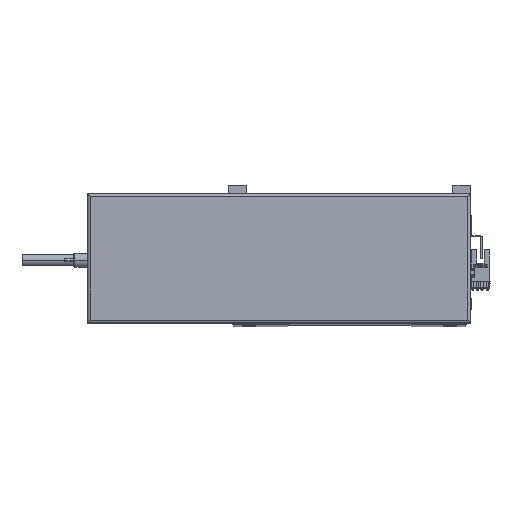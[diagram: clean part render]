
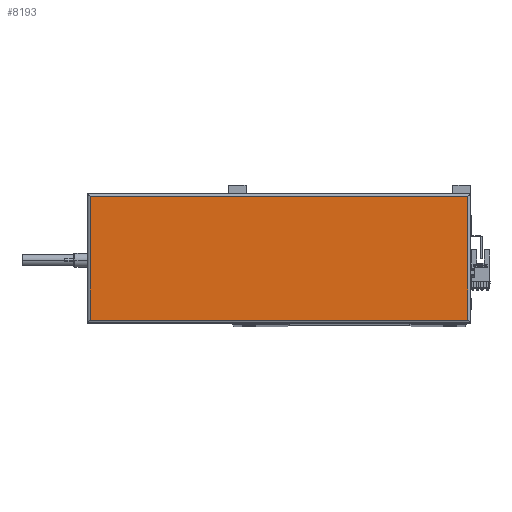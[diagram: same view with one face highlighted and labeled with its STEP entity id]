
A CAD part, top view. The second image highlights one B-rep face of the part: STEP entity #8193.
In plain terms, the highlighted planar face has unit normal (0, 0, 1).
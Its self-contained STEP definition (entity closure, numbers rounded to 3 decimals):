
#1210 = EDGE_CURVE ( 'NONE', #6570, #9128, #49458, .T. ) ;
#1787 = VECTOR ( 'NONE', #12469, 1000. ) ;
#3922 = EDGE_CURVE ( 'NONE', #42200, #6570, #14708, .T. ) ;
#4742 = CARTESIAN_POINT ( 'NONE',  ( 267., 2., 44.8 ) ) ;
#5625 = VECTOR ( 'NONE', #24433, 1000. ) ;
#5705 = CARTESIAN_POINT ( 'NONE',  ( 2., 88., 44.8 ) ) ;
#6570 = VERTEX_POINT ( 'NONE', #39170 ) ;
#6715 = DIRECTION ( 'NONE',  ( 0., 0., 1. ) ) ;
#7906 = ORIENTED_EDGE ( 'NONE', *, *, #1210, .T. ) ;
#8193 = ADVANCED_FACE ( 'NONE', ( #8262 ), #42292, .T. ) ;
#8262 = FACE_OUTER_BOUND ( 'NONE', #38332, .T. ) ;
#8308 = DIRECTION ( 'NONE',  ( 0., 1., 0. ) ) ;
#9128 = VERTEX_POINT ( 'NONE', #20532 ) ;
#10090 = CARTESIAN_POINT ( 'NONE',  ( 0., 88., 44.8 ) ) ;
#12118 = CARTESIAN_POINT ( 'NONE',  ( 2., 0., 44.8 ) ) ;
#12469 = DIRECTION ( 'NONE',  ( 0., -1., 0. ) ) ;
#14254 = CARTESIAN_POINT ( 'NONE',  ( 265., 88., 44.8 ) ) ;
#14708 = LINE ( 'NONE', #12118, #1787 ) ;
#18454 = CARTESIAN_POINT ( 'NONE',  ( 133.5, 45., 44.8 ) ) ;
#20532 = CARTESIAN_POINT ( 'NONE',  ( 265., 2., 44.8 ) ) ;
#23117 = LINE ( 'NONE', #10090, #42324 ) ;
#24433 = DIRECTION ( 'NONE',  ( 1., 0., 0. ) ) ;
#24486 = LINE ( 'NONE', #32012, #47944 ) ;
#26794 = ORIENTED_EDGE ( 'NONE', *, *, #3922, .T. ) ;
#32012 = CARTESIAN_POINT ( 'NONE',  ( 265., 90., 44.8 ) ) ;
#32670 = AXIS2_PLACEMENT_3D ( 'NONE', #18454, #6715, #38467 ) ;
#38332 = EDGE_LOOP ( 'NONE', ( #49254, #39481, #26794, #7906 ) ) ;
#38467 = DIRECTION ( 'NONE',  ( 1., 0., 0. ) ) ;
#39170 = CARTESIAN_POINT ( 'NONE',  ( 2., 2., 44.8 ) ) ;
#39481 = ORIENTED_EDGE ( 'NONE', *, *, #50605, .T. ) ;
#42026 = EDGE_CURVE ( 'NONE', #9128, #49131, #24486, .T. ) ;
#42200 = VERTEX_POINT ( 'NONE', #5705 ) ;
#42292 = PLANE ( 'NONE',  #32670 ) ;
#42324 = VECTOR ( 'NONE', #45812, 1000. ) ;
#45812 = DIRECTION ( 'NONE',  ( -1., 0., 0. ) ) ;
#47944 = VECTOR ( 'NONE', #8308, 1000. ) ;
#49131 = VERTEX_POINT ( 'NONE', #14254 ) ;
#49254 = ORIENTED_EDGE ( 'NONE', *, *, #42026, .T. ) ;
#49458 = LINE ( 'NONE', #4742, #5625 ) ;
#50605 = EDGE_CURVE ( 'NONE', #49131, #42200, #23117, .T. ) ;
